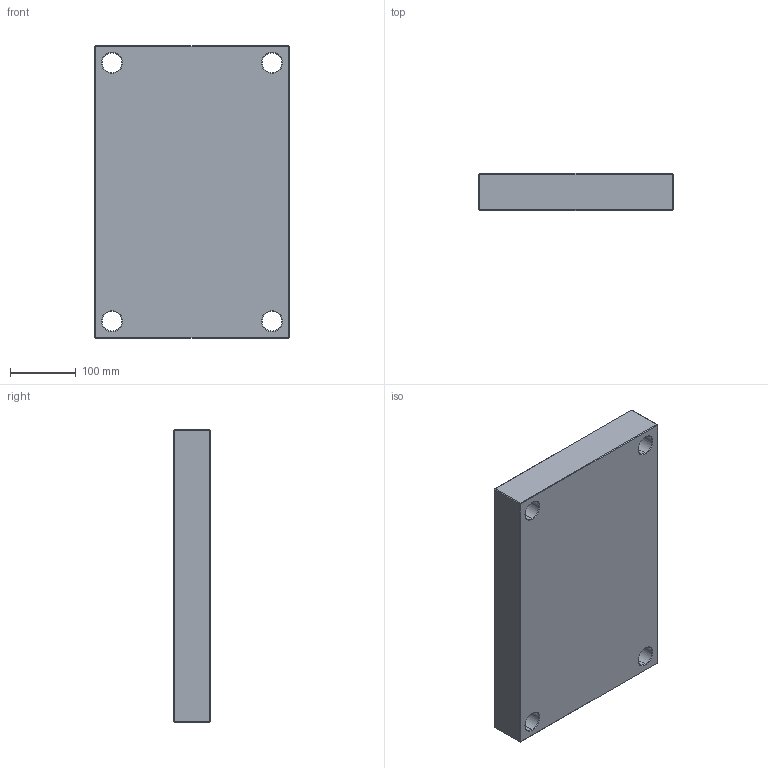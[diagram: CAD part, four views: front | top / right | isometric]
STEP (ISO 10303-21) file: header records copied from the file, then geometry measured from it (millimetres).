
FILE_DESCRIPTION (( 'STEP AP214' ), '1' );
FILE_NAME ('PC-296x446x56.STEP', '2020-04-21T16:42:10', ( 'August' ), ( '' ), 'SwSTEP 2.0', 'SolidWorks 2018', '' );
FILE_SCHEMA (( 'AUTOMOTIVE_DESIGN' ));
Length unit declared in the file: millimetre
Products named in the file (1): PC-296x446x56
Bounding box: 296 x 56 x 446 mm (x, y, z)
Volume: 7213771.4 mm3; surface area: 364255.4 mm2
Topology: 1 solids, 1 shells, 82 faces, 168 edges, 96 vertices
Faces by surface type: plane 34, cone 24, cylinder 24
Entity records: 2170 total; most frequent: DIRECTION 406, CARTESIAN_POINT 347, ORIENTED_EDGE 336, EDGE_CURVE 168, AXIS2_PLACEMENT_3D 155, EDGE_LOOP 98, VECTOR 96, LINE 96
